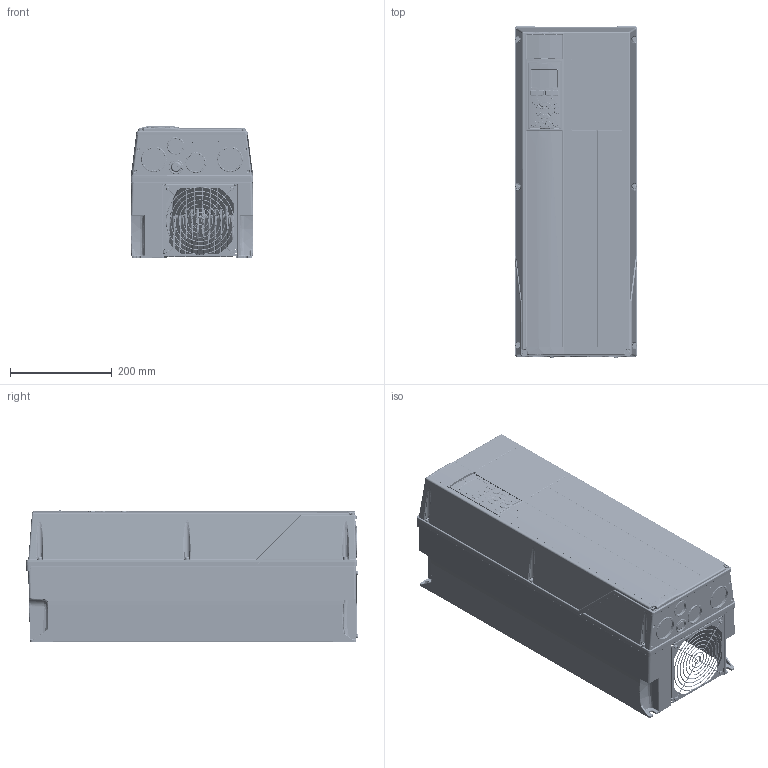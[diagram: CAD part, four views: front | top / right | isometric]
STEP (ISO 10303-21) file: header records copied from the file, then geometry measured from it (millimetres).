
FILE_DESCRIPTION((''),'2;1');
FILE_NAME('DANFOSS-FC100-B2','2011-11-15T',('cstephenkumar'),('Be-Atch INC. 1993'),'PRO/ENGINEER BY PARAMETRIC TECHNOLOGY CORPORATION, 2009360','PRO/ENGINEER BY PARAMETRIC TECHNOLOGY CORPORATION, 2009360','');
FILE_SCHEMA(('AUTOMOTIVE_DESIGN { 1 0 10303 214 1 1 1 1 }'));
Products named in the file (1): DANFOSS-FC100-B2
Bounding box: 242 x 653.31 x 260.7 mm (x, y, z)
Volume: 26176074.7 mm3; surface area: 2570734.1 mm2
Topology: 1 solids, 21 shells, 6791 faces, 16798 edges, 10099 vertices
Faces by surface type: cylinder 2375, plane 1828, bspline 1772, torus 388, cone 189, sphere 132, extrusion 107
Entity records: 311762 total; most frequent: CARTESIAN_POINT 165142, ORIENTED_EDGE 33458, DIRECTION 25601, EDGE_CURVE 16729, VERTEX_POINT 10099, AXIS2_PLACEMENT_3D 9199, VECTOR 7203, LINE 7096
